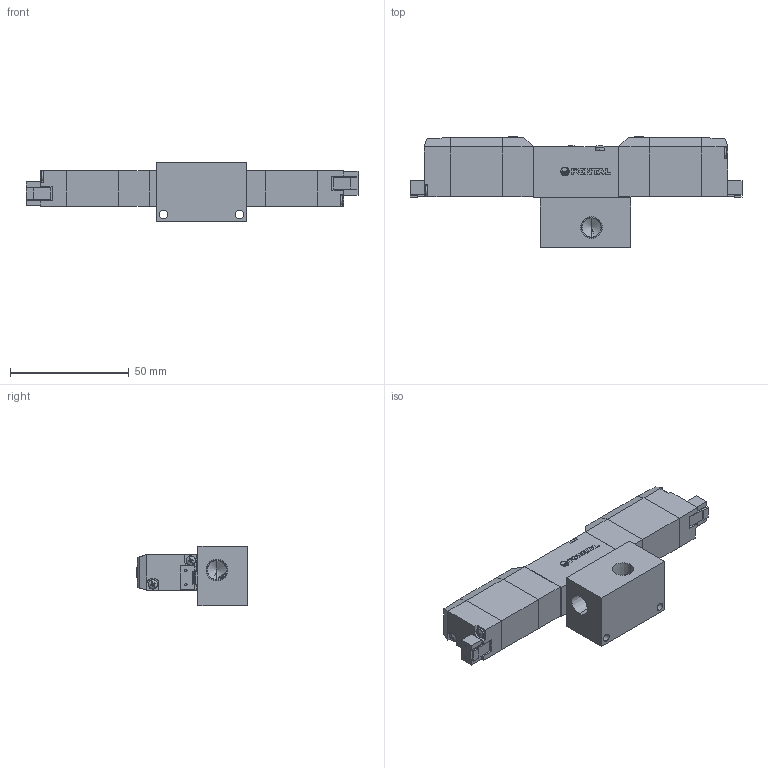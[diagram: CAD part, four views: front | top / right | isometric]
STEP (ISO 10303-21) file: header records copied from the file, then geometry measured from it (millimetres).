
FILE_DESCRIPTION (( 'STEP AP203' ), '1' );
FILE_NAME ('PCD345#-01-#-SP-#.STEP', '2016-02-04T03:44:16', ( 'Sam Lin' ), ( '' ), 'SwSTEP 2.0', 'SolidWorks 2013', '' );
FILE_SCHEMA (( 'CONFIG_CONTROL_DESIGN' ));
Length unit declared in the file: metre
Products named in the file (11): PCD345#-01-#-SP-#; PC5-6; ISO 7045 - M2.5 x 25; PC5-7; ISO 7045 - M2 x 10; PC5-8; PC5-01-1; PC5-9-345; PC5-5; PC5-10; PC-MARK
Assembly tree (19 placements, depth 2):
  PCD345#-01-#-SP-#
    PC5-5  x2
    PC-MARK
    PC5-6  x2
    ISO 7045 - M2.5 x 25  x2
    PC5-7  x2
    ISO 7045 - M2 x 10  x4
    PC5-8  x2
    PC5-01-1
    PC5-9-345
    PC5-10  x2
Bounding box: 140 x 47 x 25 mm (x, y, z)
Volume: 61011.2 mm3; surface area: 25002.7 mm2
Topology: 27 solids, 27 shells, 633 faces, 1565 edges, 981 vertices
Faces by surface type: plane 396, cylinder 105, cone 88, bspline 44
Entity records: 12376 total; most frequent: CARTESIAN_POINT 2492, ORIENTED_EDGE 1756, DIRECTION 1731, EDGE_CURVE 878, AXIS2_PLACEMENT_3D 583, VERTEX_POINT 568, VECTOR 565, LINE 565
